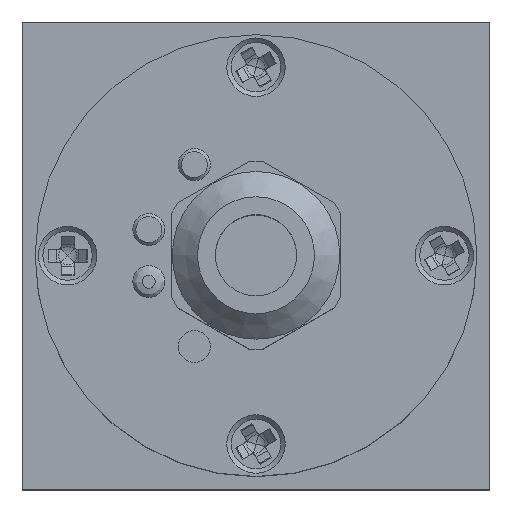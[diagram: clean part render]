
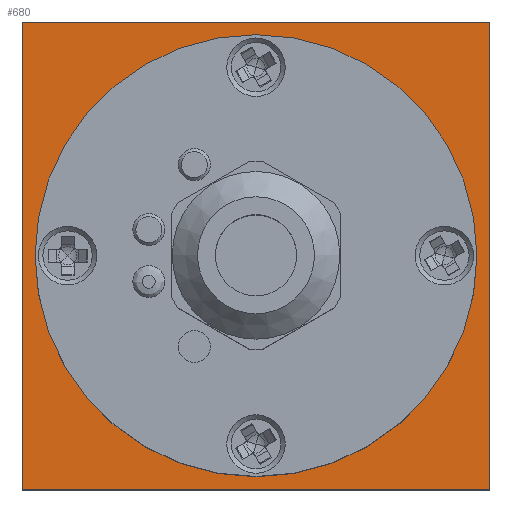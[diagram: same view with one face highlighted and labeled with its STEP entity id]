
A CAD part, top view. The second image highlights one B-rep face of the part: STEP entity #680.
In plain terms, the highlighted planar face has unit normal (0, 0, 1).
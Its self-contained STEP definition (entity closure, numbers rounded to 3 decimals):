
#680 = ADVANCED_FACE( '', ( #1551, #1552 ), #1553, .T. );
#1551 = FACE_OUTER_BOUND( '', #2649, .T. );
#1552 = FACE_BOUND( '', #2650, .T. );
#1553 = PLANE( '', #2651 );
#2649 = EDGE_LOOP( '', ( #4601, #4602, #4603, #4604 ) );
#2650 = EDGE_LOOP( '', ( #4605 ) );
#2651 = AXIS2_PLACEMENT_3D( '', #4606, #4607, #4608 );
#4601 = ORIENTED_EDGE( '', *, *, #5757, .T. );
#4602 = ORIENTED_EDGE( '', *, *, #5684, .T. );
#4603 = ORIENTED_EDGE( '', *, *, #6240, .T. );
#4604 = ORIENTED_EDGE( '', *, *, #5715, .T. );
#4605 = ORIENTED_EDGE( '', *, *, #6241, .F. );
#4606 = CARTESIAN_POINT( '', ( -18., -18., 5. ) );
#4607 = DIRECTION( '', ( 0., 0., 1. ) );
#4608 = DIRECTION( '', ( 1., 0., 0. ) );
#5684 = EDGE_CURVE( '', #6696, #6694, #6697, .T. );
#5715 = EDGE_CURVE( '', #6747, #6745, #6748, .T. );
#5757 = EDGE_CURVE( '', #6745, #6696, #6817, .T. );
#6240 = EDGE_CURVE( '', #6694, #6747, #7530, .T. );
#6241 = EDGE_CURVE( '', #7531, #7531, #7532, .T. );
#6694 = VERTEX_POINT( '', #8092 );
#6696 = VERTEX_POINT( '', #8095 );
#6697 = LINE( '', #8096, #8097 );
#6745 = VERTEX_POINT( '', #8153 );
#6747 = VERTEX_POINT( '', #8156 );
#6748 = LINE( '', #8157, #8158 );
#6817 = LINE( '', #8277, #8278 );
#7530 = LINE( '', #9243, #9244 );
#7531 = VERTEX_POINT( '', #9245 );
#7532 = CIRCLE( '', #9246, 17. );
#8092 = CARTESIAN_POINT( '', ( 18., -18., 5. ) );
#8095 = CARTESIAN_POINT( '', ( -18., -18., 5. ) );
#8096 = CARTESIAN_POINT( '', ( -18., -18., 5. ) );
#8097 = VECTOR( '', #9750, 1000. );
#8153 = CARTESIAN_POINT( '', ( -18., 18., 5. ) );
#8156 = CARTESIAN_POINT( '', ( 18., 18., 5. ) );
#8157 = CARTESIAN_POINT( '', ( 18., 18., 5. ) );
#8158 = VECTOR( '', #9799, 1000. );
#8277 = CARTESIAN_POINT( '', ( -18., 18., 5. ) );
#8278 = VECTOR( '', #9837, 1000. );
#9243 = CARTESIAN_POINT( '', ( 18., -18., 5. ) );
#9244 = VECTOR( '', #10457, 1000. );
#9245 = CARTESIAN_POINT( '', ( 17., 0., 5. ) );
#9246 = AXIS2_PLACEMENT_3D( '', #10458, #10459, #10460 );
#9750 = DIRECTION( '', ( 1., 0., 0. ) );
#9799 = DIRECTION( '', ( -1., 0., 0. ) );
#9837 = DIRECTION( '', ( 0., -1., 0. ) );
#10457 = DIRECTION( '', ( 0., 1., 0. ) );
#10458 = CARTESIAN_POINT( '', ( 0., 0., 5. ) );
#10459 = DIRECTION( '', ( 0., 0., 1. ) );
#10460 = DIRECTION( '', ( 1., 0., 0. ) );
